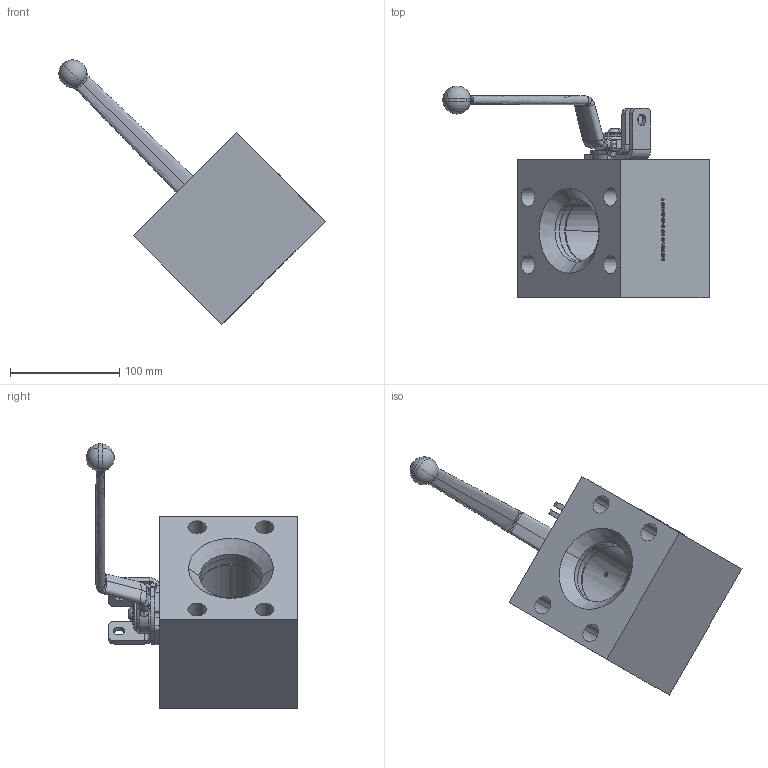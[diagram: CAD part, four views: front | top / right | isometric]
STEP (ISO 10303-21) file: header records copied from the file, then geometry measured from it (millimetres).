
FILE_DESCRIPTION (( 'STEP AP214' ), '1' );
FILE_NAME ('IBF-B-6148-N-D-T-Open.STEP', '2026-01-29T15:19:53', ( '' ), ( '' ), 'SwSTEP 2.0', 'SolidWorks 2025', '' );
FILE_SCHEMA (( 'AUTOMOTIVE_DESIGN' ));
Products named in the file (1): IBF-B-6148-N-D-T-Open
Bounding box: 243.32 x 193.48 x 241.78 mm (x, y, z)
Volume: 1518577.4 mm3; surface area: 233853.5 mm2
Topology: 1 solids, 1 shells, 939 faces, 2707 edges, 1810 vertices
Faces by surface type: plane 500, bspline 180, cylinder 167, cone 53, torus 20, sphere 19
Entity records: 51657 total; most frequent: CARTESIAN_POINT 28963, ORIENTED_EDGE 5390, DIRECTION 3776, EDGE_CURVE 2695, VERTEX_POINT 1806, VECTOR 1312, LINE 1312, AXIS2_PLACEMENT_3D 1232
